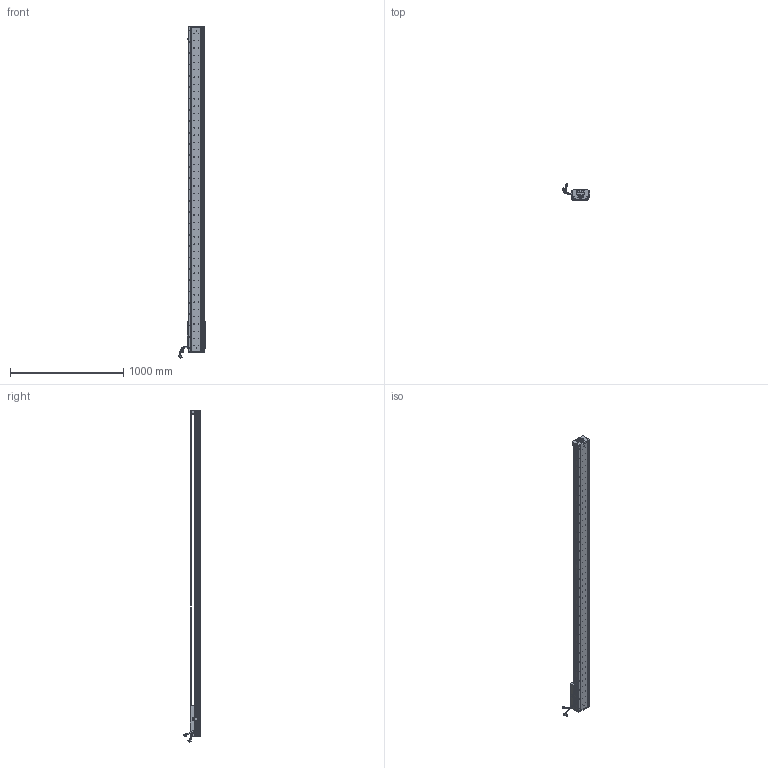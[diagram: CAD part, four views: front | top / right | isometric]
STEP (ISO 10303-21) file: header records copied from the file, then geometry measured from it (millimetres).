
FILE_DESCRIPTION (( 'STEP AP203' ), '1' );
FILE_NAME ('Z3-RY140D-1-L500-B-K.SLDASM_2550.step', '2021-05-17T08:05:34', ( '盈信电脑' ), ( '东莞市道滘镇水果街19号' ), 'SwSTEP 2.0', 'SolidWorks 2016', '' );
FILE_SCHEMA (( 'CONFIG_CONTROL_DESIGN' ));
Length unit declared in the file: millimetre
Products named in the file (36): Z3-RY140圉猾敕臏賑輸(21遴); Z-RY140感应器672光电感应片; Z-140詩湍傷裔啣; SCALE-Part-1; 榋妏寠巭燃_暯_M2_2; HOLDER0; PSLH080_PSLF2; SEAL-Part-1; LABEL; SCALE-Part-2; SCREW-M1.6-1; 140-Z-臏賑輸盄裔(21遴); SEAL; 140蚥薯蝶輸; SCREW-M1.7-1; SCREW-M1.7; SCALE; Z-RY140詩湍奻揤裔; HARNESS; COVER; 覜茼ん672; PBU_SHEET; LABEL-Part-1; Z3-RY140-L500詩湍100mm遵_2550; Z3-RY140-L500直线电机模组底座_2550; 140雄赽晤鎢ん堤盄; HARNESS-Part-2; SHIELDPLATE; 080黍杅芛假蚾釱21遴; Z-RY140詩湍狟揤裔; HARNESS-Part-1; SCREW-M1.6-3; COVER-Part-1; Z3-RY140D-1-L500-B-K.SLDASM_2550; SCREW-M1.6-2; SCREW-M1.6
Assembly tree (41 placements, depth 4):
  Z3-RY140D-1-L500-B-K.SLDASM_2550
    Z3-RY140-L500直线电机模组底座_2550
    Z-RY140感应器672光电感应片
    Z3-RY140圉猾敕臏賑輸(21遴)
    覜茼ん672  x3
    Z3-RY140-L500詩湍100mm遵_2550
    PSLH080_PSLF2
      SCALE
        SCALE-Part-1
        SCALE-Part-2
      HARNESS
        HARNESS-Part-1
        HARNESS-Part-2
      LABEL
        LABEL-Part-1
      COVER
        COVER-Part-1
      SEAL
        SEAL-Part-1
      榋妏寠巭燃_暯_M2_2
      SHIELDPLATE
      SCREW-M1.7
      SCREW-M1.7-1
      PBU_SHEET
      SCREW-M1.6
      SCREW-M1.6-1
      SCREW-M1.6-2
      SCREW-M1.6-3
      HOLDER0
    080黍杅芛假蚾釱21遴
    140-Z-臏賑輸盄裔(21遴)
    Z-140詩湍傷裔啣  x2
    Z-RY140詩湍狟揤裔  x2
    Z-RY140詩湍奻揤裔  x2
    140蚥薯蝶輸  x2
    140雄赽晤鎢ん堤盄
Bounding box: 239.79 x 143.88 x 2925.87 mm (x, y, z)
Volume: 9281939.1 mm3; surface area: 2421284 mm2
Topology: 36 solids, 36 shells, 4336 faces, 11844 edges, 7503 vertices
Faces by surface type: cylinder 2382, plane 1410, cone 422, torus 69, bspline 53
Entity records: 138960 total; most frequent: CARTESIAN_POINT 39799, ORIENTED_EDGE 20568, DIRECTION 18876, EDGE_CURVE 10284, AXIS2_PLACEMENT_3D 7028, VERTEX_POINT 6671, LINE 4820, VECTOR 4820
